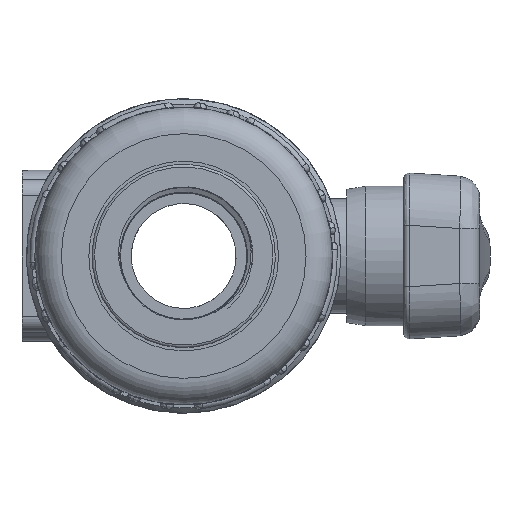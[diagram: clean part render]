
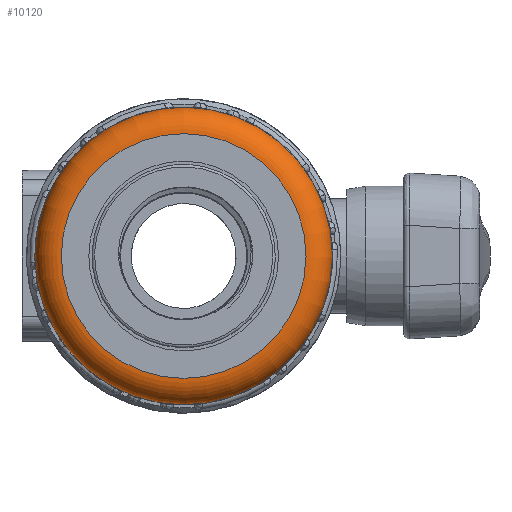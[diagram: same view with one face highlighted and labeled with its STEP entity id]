
A CAD part, front view. The second image highlights one B-rep face of the part: STEP entity #10120.
In plain terms, the highlighted toroidal (fillet/blend) face has major radius 23.35 mm and minor radius 5 mm.
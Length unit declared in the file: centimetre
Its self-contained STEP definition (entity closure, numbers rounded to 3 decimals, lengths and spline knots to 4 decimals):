
#1776=TOROIDAL_SURFACE('',#10823,2.335,0.5);
#1996=FACE_BOUND('',#2867,.T.);
#2261=FACE_OUTER_BOUND('',#2866,.T.);
#2866=EDGE_LOOP('',(#7178));
#2867=EDGE_LOOP('',(#7179));
#3483=CIRCLE('',#10821,2.335);
#3485=CIRCLE('',#10824,2.835);
#4118=VERTEX_POINT('',#40593);
#4120=VERTEX_POINT('',#40598);
#5261=EDGE_CURVE('',#4118,#4118,#3483,.T.);
#5263=EDGE_CURVE('',#4120,#4120,#3485,.T.);
#7178=ORIENTED_EDGE('',*,*,#5263,.F.);
#7179=ORIENTED_EDGE('',*,*,#5261,.T.);
#10120=ADVANCED_FACE('',(#2261,#1996),#1776,.T.);
#10821=AXIS2_PLACEMENT_3D('',#40594,#12262,#12263);
#10823=AXIS2_PLACEMENT_3D('',#40597,#12266,#12267);
#10824=AXIS2_PLACEMENT_3D('',#40599,#12268,#12269);
#12262=DIRECTION('center_axis',(0.,1.,0.));
#12263=DIRECTION('ref_axis',(-0.337,0.,0.942));
#12266=DIRECTION('center_axis',(0.,1.,0.));
#12267=DIRECTION('ref_axis',(-0.942,0.,-0.337));
#12268=DIRECTION('center_axis',(0.,1.,0.));
#12269=DIRECTION('ref_axis',(-0.337,0.,0.942));
#40593=CARTESIAN_POINT('',(0.7865,-3.5,-2.1985));
#40594=CARTESIAN_POINT('Origin',(0.,-3.5,0.));
#40597=CARTESIAN_POINT('Origin',(0.,-3.,0.));
#40598=CARTESIAN_POINT('',(0.9549,-3.,-2.6693));
#40599=CARTESIAN_POINT('Origin',(0.,-3.,0.));
